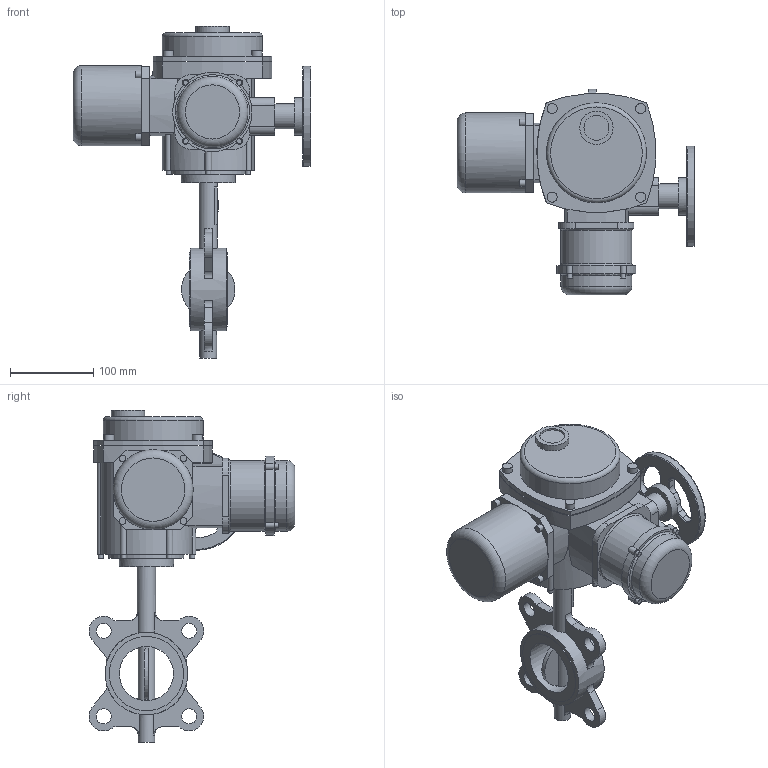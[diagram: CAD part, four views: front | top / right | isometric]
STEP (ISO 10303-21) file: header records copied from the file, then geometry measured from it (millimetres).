
FILE_DESCRIPTION(('STEP AP203'), '1');
FILE_NAME('青蜮铕 017W.Y_DN60_QT.Z 10', '', ('UNSPECIFIED'), ('UNSPECIFIED'), 'ASCON STEP Converter 1.6', 'ASCON Math Kernel', '');
FILE_SCHEMA(('CONFIG_CONTROL_DESIGN'));
Length unit declared in the file: millimetre
Bounding box: 285 x 246.7 x 398 mm (x, y, z)
Volume: 3898106.5 mm3; surface area: 334110.7 mm2
Topology: 1 solids, 1 shells, 338 faces, 813 edges, 512 vertices
Faces by surface type: cylinder 151, plane 135, torus 40, cone 12
Full cylindrical faces by diameter (mm): 4.917 x4, 6 x10, 6.647 x4, 8 x8, 12 x4, 12.386 x1, 12.6 x1, 18 x4, 20 x2, 22 x1, 30 x2, 35 x1, 40 x1, 45 x1, 55 x1, 65 x2, 85 x2, 89 x2, 90 x1, 96 x1, 99 x1, 120 x2
Entity records: 14391 total; most frequent: CARTESIAN_POINT 3811, DIRECTION 1776, ORIENTED_EDGE 1454, AXIS2_PLACEMENT_3D 756, EDGE_CURVE 727, VERTEX_POINT 503, EDGE_LOOP 477, CIRCLE 417
